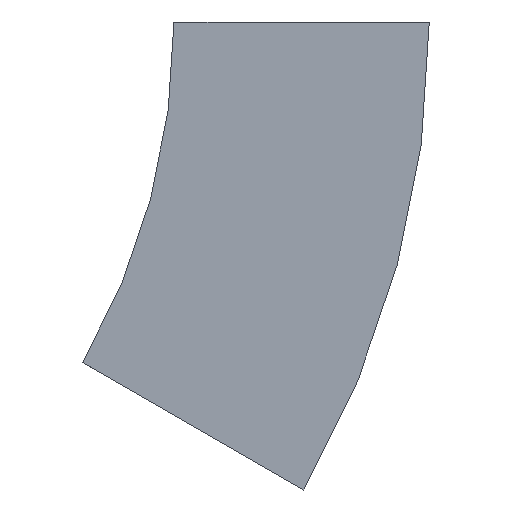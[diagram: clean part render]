
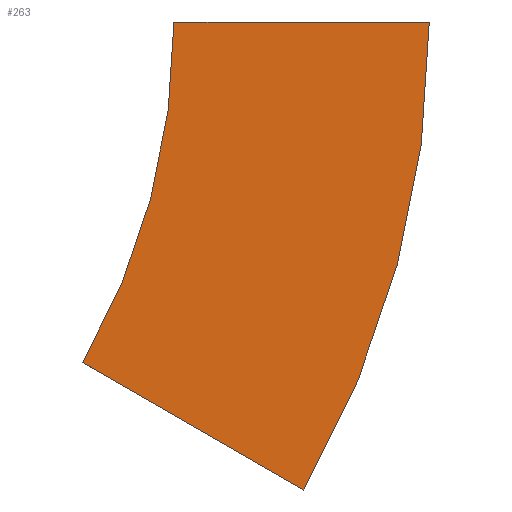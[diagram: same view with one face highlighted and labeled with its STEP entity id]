
A CAD part, left-side view. The second image highlights one B-rep face of the part: STEP entity #263.
In plain terms, the highlighted planar face has unit normal (-1, 0, 0) as drawn and (1, 0, 0) by its records, which use the part's own axes.
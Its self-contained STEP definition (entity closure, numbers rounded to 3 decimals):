
#38 = DIRECTION ( 'NONE',  ( 0., -1., 0. ) ) ;
#59 = AXIS2_PLACEMENT_3D ( 'NONE', #397, #133, #521 ) ;
#61 = ORIENTED_EDGE ( 'NONE', *, *, #257, .F. ) ;
#68 = LINE ( 'NONE', #284, #185 ) ;
#74 = CIRCLE ( 'NONE', #372, 300. ) ;
#94 = CARTESIAN_POINT ( 'NONE',  ( 0., 40.192, -150. ) ) ;
#100 = CARTESIAN_POINT ( 'NONE',  ( 0., 300., 0. ) ) ;
#105 = CIRCLE ( 'NONE', #178, 412.5 ) ;
#131 = DIRECTION ( 'NONE',  ( 1., 0., 0. ) ) ;
#133 = DIRECTION ( 'NONE',  ( -1., 0., 0. ) ) ;
#141 = PLANE ( 'NONE',  #59 ) ;
#169 = CARTESIAN_POINT ( 'NONE',  ( 0., -57.235, -206.25 ) ) ;
#178 = AXIS2_PLACEMENT_3D ( 'NONE', #100, #428, #38 ) ;
#185 = VECTOR ( 'NONE', #373, 1000. ) ;
#212 = VERTEX_POINT ( 'NONE', #94 ) ;
#220 = VECTOR ( 'NONE', #400, 1000. ) ;
#222 = LINE ( 'NONE', #390, #220 ) ;
#243 = VERTEX_POINT ( 'NONE', #169 ) ;
#257 = EDGE_CURVE ( 'NONE', #463, #212, #74, .T. ) ;
#263 = ADVANCED_FACE ( 'NONE', ( #355 ), #141, .F. ) ;
#273 = DIRECTION ( 'NONE',  ( 0., -1., 0. ) ) ;
#284 = CARTESIAN_POINT ( 'NONE',  ( 0., -57.235, -206.25 ) ) ;
#297 = ORIENTED_EDGE ( 'NONE', *, *, #442, .T. ) ;
#310 = CARTESIAN_POINT ( 'NONE',  ( 0., -112.5, 0. ) ) ;
#346 = CARTESIAN_POINT ( 'NONE',  ( 0., 300., 0. ) ) ;
#349 = VERTEX_POINT ( 'NONE', #310 ) ;
#353 = EDGE_CURVE ( 'NONE', #349, #243, #105, .T. ) ;
#355 = FACE_OUTER_BOUND ( 'NONE', #554, .T. ) ;
#359 = EDGE_CURVE ( 'NONE', #349, #463, #222, .T. ) ;
#372 = AXIS2_PLACEMENT_3D ( 'NONE', #346, #131, #273 ) ;
#373 = DIRECTION ( 'NONE',  ( 0., 0.866, 0.5 ) ) ;
#390 = CARTESIAN_POINT ( 'NONE',  ( 0., -112.5, 0. ) ) ;
#397 = CARTESIAN_POINT ( 'NONE',  ( 0., -112.5, 0. ) ) ;
#400 = DIRECTION ( 'NONE',  ( 0., 1., 0. ) ) ;
#428 = DIRECTION ( 'NONE',  ( 1., 0., 0. ) ) ;
#442 = EDGE_CURVE ( 'NONE', #243, #212, #68, .T. ) ;
#456 = CARTESIAN_POINT ( 'NONE',  ( 0., 0., 0. ) ) ;
#463 = VERTEX_POINT ( 'NONE', #456 ) ;
#508 = ORIENTED_EDGE ( 'NONE', *, *, #359, .F. ) ;
#521 = DIRECTION ( 'NONE',  ( 0., 0., 1. ) ) ;
#538 = ORIENTED_EDGE ( 'NONE', *, *, #353, .T. ) ;
#554 = EDGE_LOOP ( 'NONE', ( #61, #508, #538, #297 ) ) ;
